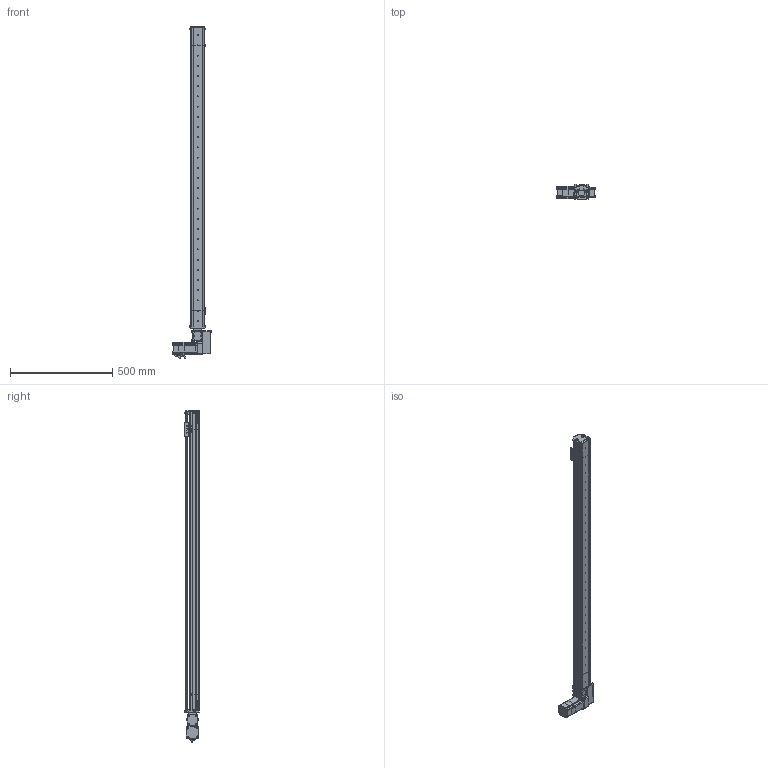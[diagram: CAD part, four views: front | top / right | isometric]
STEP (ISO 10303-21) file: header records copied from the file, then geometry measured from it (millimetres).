
FILE_DESCRIPTION (( 'STEP AP214' ), '1' );
FILE_NAME ('S07 TBN LH S1300.STEP', '2010-06-29T12:00:39', ( 'Conseil Régional Haute-Normandie' ), ( 'Conseil Régional Haute-Normandie' ), 'SwSTEP 2.0', 'SolidWorks 2010', '' );
FILE_SCHEMA (( 'AUTOMOTIVE_DESIGN' ));
Length unit declared in the file: millimetre
Products named in the file (41): couvercle tail TB; vis M5 L5_Default; Couroie t皻e_Default; corp tail TB_Default; P1_Default; GMB 60 90 310_Default; VisM3_Default; P2 90A_Default; renvoi LH_Default; Plaque racord_Default; Axe 60BLDC_Default; cache t皻e_Default; P3 90A_Default; S07 TB tail (78)_Default; Vis M5 L16-2_Default; Pièce5^S07 LH(146); P4_Default; Conecteur2 60BLDC_Default; Conecteur 60BLDC_Default; Cvis M5 L30_Default; plaque de bout_Default; Poulie head_Default; CHariot_Default; couroie tail_Default; vis M5 L16_Default; Chariot; guide; Poulie_Default; T皻e de poulie_Default; vis M5 L12_Default; Corp S07 course 1300_Default; corp moteur LH-RH(146)_Default; S07 LH(146)_Default; couvercle S07 course 1300 ; Couroie  course 1300_Default; Course C L1300_Default; S07 TBN LH S1300; couvercle moteur S07 TB; plaque de bout LH_Default; cache t皻e axe_Default
Assembly tree (80 placements, depth 4):
  Pièce5^S07 LH(146)
  S07 TBN LH S1300
    S07 TB tail (78)_Default
      vis M5 L12_Default  x10
      Poulie_Default
        Poulie_Default
        T皻e de poulie_Default
      couvercle tail TB
      couroie tail_Default
      corp tail TB_Default
      plaque de bout_Default
    S07 LH(146)_Default
      vis M5 L5_Default  x6
      vis M5 L12_Default  x6
      Cvis M5 L30_Default  x2
      Vis M5 L16-2_Default  x8
      renvoi LH_Default
      GMB 60 90 310_Default
        VisM3_Default  x12
        P3 90A_Default
        Conecteur 60BLDC_Default
        P2 90A_Default
        P1_Default
        P4_Default
        Axe 60BLDC_Default
        Conecteur2 60BLDC_Default
      cache t皻e axe_Default
      cache t皻e_Default  x2
      corp moteur LH-RH(146)_Default
      couvercle moteur S07 TB
      Plaque racord_Default
      Couroie t皻e_Default
      Poulie head_Default
      plaque de bout LH_Default
    CHariot_Default
      guide
      vis M5 L16_Default  x2
      Chariot
    Course C L1300_Default
      Couroie  course 1300_Default
      couvercle S07 course 1300 
      Corp S07 course 1300_Default
Bounding box: 190.2 x 72.2 x 1627 mm (x, y, z)
Volume: 3115831.6 mm3; surface area: 1350694.8 mm2
Topology: 102 solids, 102 shells, 3954 faces, 9834 edges, 6353 vertices
Faces by surface type: plane 2241, cylinder 783, bspline 677, cone 125, torus 124, sphere 4
Entity records: 168061 total; most frequent: CARTESIAN_POINT 75345, ORIENTED_EDGE 15580, DIRECTION 12461, EDGE_CURVE 7790, VERTEX_POINT 5141, LINE 5067, VECTOR 5067, AXIS2_PLACEMENT_3D 3697
